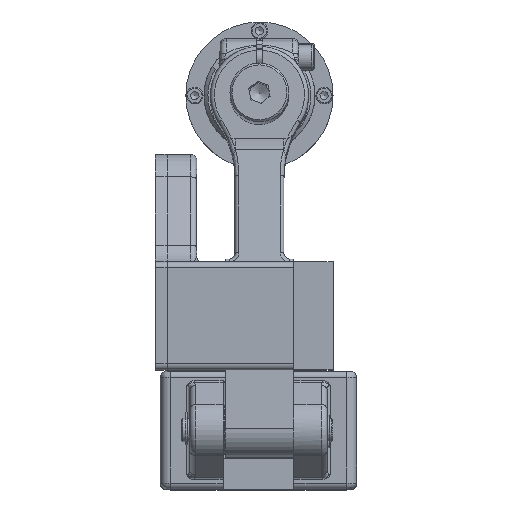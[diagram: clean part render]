
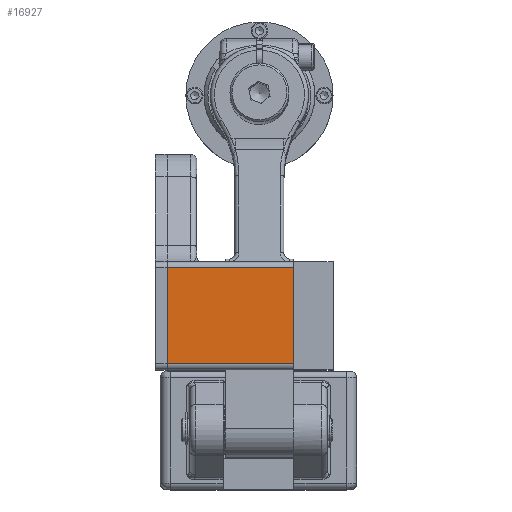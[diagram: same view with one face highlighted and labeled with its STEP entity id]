
A CAD part, top view. The second image highlights one B-rep face of the part: STEP entity #16927.
In plain terms, the highlighted planar face has unit normal (0, 0, 1).
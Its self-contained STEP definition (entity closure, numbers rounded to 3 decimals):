
#1792=LINE('',#28280,#3028);
#1814=LINE('',#28376,#3050);
#1870=LINE('',#28747,#3106);
#1871=LINE('',#28748,#3107);
#3028=VECTOR('',#20908,10.);
#3050=VECTOR('',#20984,10.);
#3106=VECTOR('',#21208,10.);
#3107=VECTOR('',#21209,10.);
#4077=PLANE('',#18234);
#4735=FACE_OUTER_BOUND('',#5691,.T.);
#5691=EDGE_LOOP('',(#13217,#13218,#13219,#13220));
#7967=VERTEX_POINT('',#28273);
#7970=VERTEX_POINT('',#28278);
#7994=VERTEX_POINT('',#28369);
#7997=VERTEX_POINT('',#28374);
#9852=EDGE_CURVE('',#7970,#7967,#1792,.T.);
#9891=EDGE_CURVE('',#7997,#7994,#1814,.T.);
#9995=EDGE_CURVE('',#7994,#7970,#1870,.T.);
#9996=EDGE_CURVE('',#7967,#7997,#1871,.T.);
#13217=ORIENTED_EDGE('',*,*,#9852,.F.);
#13218=ORIENTED_EDGE('',*,*,#9995,.F.);
#13219=ORIENTED_EDGE('',*,*,#9891,.F.);
#13220=ORIENTED_EDGE('',*,*,#9996,.F.);
#16927=ADVANCED_FACE('',(#4735),#4077,.T.);
#18234=AXIS2_PLACEMENT_3D('',#28746,#21206,#21207);
#20908=DIRECTION('',(-1.,0.,0.));
#20984=DIRECTION('',(1.,0.,0.));
#21206=DIRECTION('center_axis',(0.,0.,1.));
#21207=DIRECTION('ref_axis',(1.,0.,0.));
#21208=DIRECTION('',(0.,-1.,0.));
#21209=DIRECTION('',(0.,1.,0.));
#28273=CARTESIAN_POINT('',(0.,3.,90.));
#28278=CARTESIAN_POINT('',(64.5,3.,90.));
#28280=CARTESIAN_POINT('',(44.475,3.,90.));
#28369=CARTESIAN_POINT('',(64.5,52.,90.));
#28374=CARTESIAN_POINT('',(0.,52.,90.));
#28376=CARTESIAN_POINT('',(19.725,52.,90.));
#28746=CARTESIAN_POINT('Origin',(24.449,47.199,90.));
#28747=CARTESIAN_POINT('',(64.5,0.,90.));
#28748=CARTESIAN_POINT('',(0.,110.,90.));
